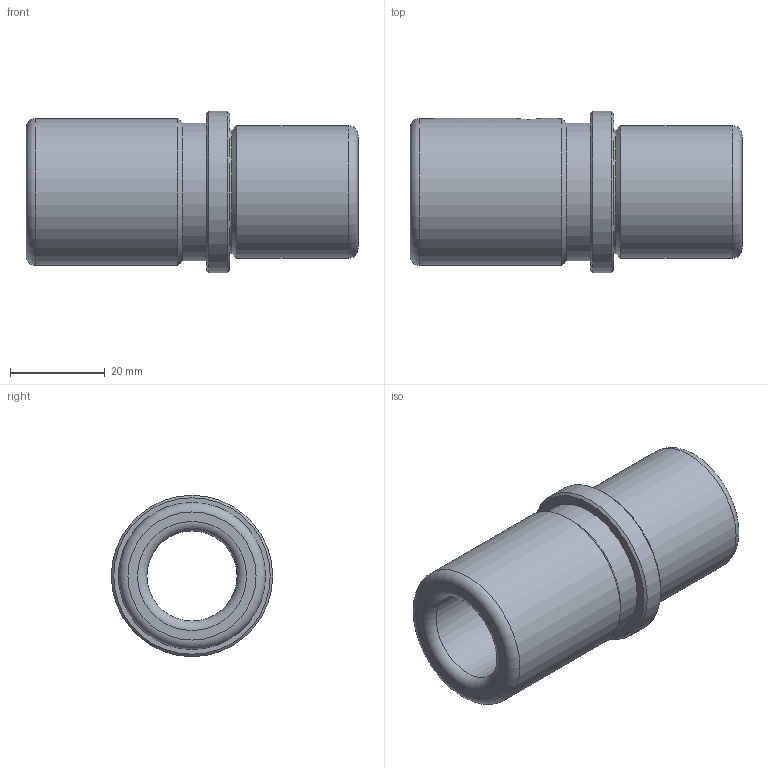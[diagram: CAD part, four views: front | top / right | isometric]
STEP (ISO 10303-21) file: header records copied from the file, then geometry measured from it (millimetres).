
FILE_DESCRIPTION( ( 'STEP AP214' ), '1' );
FILE_NAME( 'p:/temp/worker_1045/temp/exporttempdir_3832_536_DZnNN/format_1/WZ - 4051 19 x 70.stp', '2020-12-03T19:50:36', ( 'License CC BY-ND 4.0' ), ( 'CADENAS' ), ' ', 'PARTsolutions', ' ' );
FILE_SCHEMA( ( 'AUTOMOTIVE_DESIGN { 1 0 10303 214 1 1 1 1 }' ) );
Length unit declared in the file: millimetre
Products named in the file (1): _WZ - 4051 19 x 70
Bounding box: 70 x 34 x 34 mm (x, y, z)
Volume: 28831.3 mm3; surface area: 12101.1 mm2
Topology: 1 solids, 1 shells, 21 faces, 38 edges, 22 vertices
Faces by surface type: cylinder 7, cone 5, plane 5, torus 4
Full cylindrical faces by diameter (mm): 4.917 x1, 19 x1, 26 x1, 28 x1, 29 x1, 31 x1, 34 x1
Entity records: 736 total; most frequent: CARTESIAN_POINT 182, DIRECTION 84, EDGE_LOOP 44, ORIENTED_EDGE 44, AXIS2_PLACEMENT_3D 42, FACE_OUTER_BOUND 32, EDGE_CURVE 22, VERTEX_POINT 22
